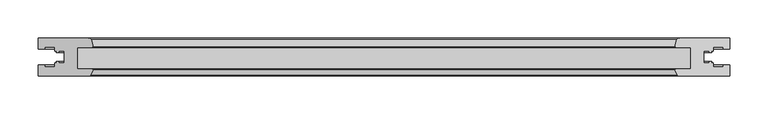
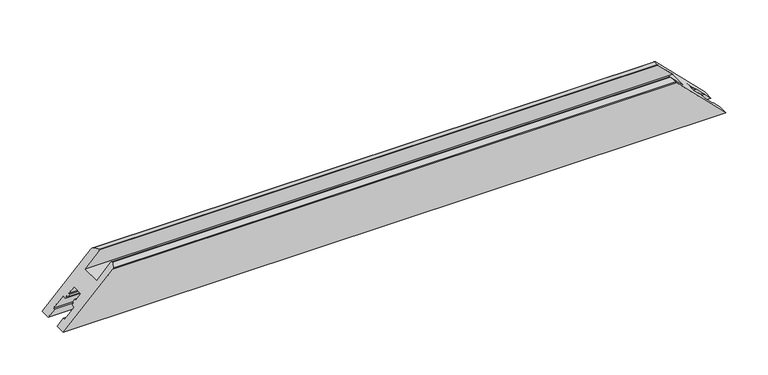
"""IFC4 building model written with IfcOpenShell, lengths in millimetres: proxy geometry, Weiku - Montante - Folha de correr 02.2.01.020 : Weiku - Montante - Folha de correr 02.2.01.020."""

from ifc_helpers import new_model, si_unit, frame, origin, place, context, project, spatial, ellipse_curve, source, transform, mapped, element, save
from ifc_brep_helpers import plane_surface, cylinder_surface, advanced_brep


def generic_models_0fb89373(model_context):
    return source(origin(), model_context, "Body", "AdvancedBrep", [
        advanced_brep(
        [(453.5, 50.0, 0.0), (-453.5, 50.0, 0.0), (-387.0004942, 50.0, 66.4995058), (387.0004942, 50.0, 66.4995058), (453.5, 35.5, 0.0), (-453.5, 35.5, 0.0), (-453.5, 0.0, 0.0), (453.5, 0.0, 0.0), (385.9879875, 0.0, 67.5120125), (-385.9879875, 0.0, 67.5120125), (-444.9, 35.5, 8.6), (-444.9, 38.3, 8.6), (-431.7, 38.3, 21.8), (-431.7, 33.1, 21.8), (-429.3524152, 33.1, 24.1475848), (-429.5273926, 31.1, 23.9726074), (-426.7, 31.1, 26.8), (-426.7, 33.1, 26.8), (-419.5, 33.1, 34.0), (-419.5, 16.9, 34.0), (-426.7, 16.9, 26.8), (-426.7, 18.9, 26.8), (-429.5273926, 18.9, 23.9726074), (-429.3524152, 16.9, 24.1475848), (-431.7, 16.9, 21.8), (-431.7, 11.7, 21.8), (-444.9, 11.7, 8.6), (-444.9, 14.5, 8.6), (-453.5, 14.5, 0.0), (-385.0940268, 0.5518546, 68.4059732), (-381.5520406, 7.617411, 71.9479594), (-382.7141895, 9.5, 70.7858105), (-402.5007611, 9.5, 50.9992389), (-402.5007611, 37.5, 50.9992389), (-382.0007611, 37.5, 71.4992389), (-381.5177981, 38.1294095, 71.9822019), (-384.1027168, 47.7764571, 69.3972832), (384.1027168, 47.7764571, 69.3972832), (381.5177981, 38.1294095, 71.9822019), (382.0007611, 37.5, 71.4992389), (402.5007611, 37.5, 50.9992389), (402.5007611, 9.5, 50.9992389), (382.7141895, 9.5, 70.7858105), (381.5520406, 7.617411, 71.9479594), (385.0940268, 0.5518546, 68.4059732), (453.5, 14.5, 0.0), (444.9, 14.5, 8.6), (444.9, 11.7, 8.6), (431.7, 11.7, 21.8), (431.7, 16.9, 21.8), (429.3524152, 16.9, 24.1475848), (429.5273926, 18.9, 23.9726074), (426.7, 18.9, 26.8), (426.7, 16.9, 26.8), (419.5, 16.9, 34.0), (419.5, 33.1, 34.0), (426.7, 33.1, 26.8), (426.7, 31.1, 26.8), (429.5273926, 31.1, 23.9726074), (429.3524152, 33.1, 24.1475848), (431.7, 33.1, 21.8), (431.7, 38.3, 21.8), (444.9, 38.3, 8.6), (444.9, 35.5, 8.6)],
        [
            (0, 1),
            (1, 2),
            (2, 3),
            (3, 0),
            (0, 4),
            (4, 5),
            (5, 1),
            (6, 7),
            (7, 8),
            (8, 9),
            (9, 6),
            (5, 10),
            (10, 11),
            (11, 12),
            (12, 13),
            (13, 14),
            (14, 15),
            (15, 16),
            (16, 17),
            (17, 18),
            (18, 19),
            (19, 20),
            (20, 21),
            (21, 22),
            (22, 23),
            (23, 24),
            (24, 25),
            (25, 26),
            (26, 27),
            (27, 28),
            (28, 6),
            (9, 29, ellipse_curve(frame((-385.9879875, 1.0, 67.5120125), z_axis=(-0.7071067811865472, 0.0, 0.7071067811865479), x_axis=(-0.7071067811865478, 0.0, -0.7071067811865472)), 1.4142136, 1.0)),
            (29, 30),
            (30, 31, ellipse_curve(frame((-382.7141895, 8.2, 70.7858105), z_axis=(-0.7071067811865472, 0.0, 0.7071067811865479), x_axis=(-0.7071067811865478, 0.0, -0.7071067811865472)), 1.8384776, 1.3)),
            (31, 32),
            (32, 33),
            (33, 34),
            (34, 35, ellipse_curve(frame((-382.0007611, 38.0, 71.4992389), z_axis=(-0.7071067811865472, 0.0, 0.7071067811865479), x_axis=(-0.7071067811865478, 0.0, -0.7071067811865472)), 0.7071068, 0.5)),
            (35, 36),
            (36, 2, ellipse_curve(frame((-387.0004942, 47.0, 66.4995058), z_axis=(-0.7071067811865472, 0.0, 0.7071067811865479), x_axis=(-0.7071067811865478, 0.0, -0.7071067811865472)), 4.2426407, 3.0)),
            (3, 37, ellipse_curve(frame((387.0004942, 47.0, 66.4995058), z_axis=(0.7071067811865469, 0.0, 0.7071067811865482), x_axis=(-0.707106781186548, 0.0, 0.7071067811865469)), 4.2426407, 3.0)),
            (37, 38),
            (38, 39, ellipse_curve(frame((382.0007611, 38.0, 71.4992389), z_axis=(0.7071067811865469, 0.0, 0.7071067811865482), x_axis=(-0.707106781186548, 0.0, 0.7071067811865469)), 0.7071068, 0.5)),
            (39, 40),
            (40, 41),
            (41, 42),
            (42, 43, ellipse_curve(frame((382.7141895, 8.2, 70.7858105), z_axis=(0.7071067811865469, 0.0, 0.7071067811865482), x_axis=(-0.707106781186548, 0.0, 0.7071067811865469)), 1.8384776, 1.3)),
            (43, 44),
            (44, 8, ellipse_curve(frame((385.9879875, 1.0, 67.5120125), z_axis=(0.7071067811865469, 0.0, 0.7071067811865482), x_axis=(-0.707106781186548, 0.0, 0.7071067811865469)), 1.4142136, 1.0)),
            (7, 45),
            (45, 46),
            (46, 47),
            (47, 48),
            (48, 49),
            (49, 50),
            (50, 51),
            (51, 52),
            (52, 53),
            (53, 54),
            (54, 55),
            (55, 56),
            (56, 57),
            (57, 58),
            (58, 59),
            (59, 60),
            (60, 61),
            (61, 62),
            (62, 63),
            (63, 4),
            (44, 29),
            (43, 30),
            (42, 31),
            (41, 32),
            (40, 33),
            (39, 34),
            (38, 35),
            (37, 36),
            (63, 10),
            (62, 11),
            (61, 12),
            (60, 13),
            (59, 14),
            (58, 15),
            (57, 16),
            (56, 17),
            (55, 18),
            (54, 19),
            (53, 20),
            (52, 21),
            (51, 22),
            (50, 23),
            (49, 24),
            (48, 25),
            (47, 26),
            (46, 27),
            (45, 28),
        ],
        [
            plane_surface(frame((-453.5, 50.0, 66.4995058), z_axis=(0.0, 1.0, 0.0), x_axis=(1.0, 0.0, 0.0))),
            plane_surface(frame((-453.5, 50.0, 0.0), z_axis=(0.0, 0.0, -1.0), x_axis=(1.0, 0.0, 0.0))),
            plane_surface(frame((-453.5, 0.0, 0.0), z_axis=(0.0, -1.0, 0.0), x_axis=(1.0, 0.0, 0.0))),
            plane_surface(frame((-481.7842712, 0.0, -28.2842712), z_axis=(-0.7071067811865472, 0.0, 0.7071067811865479), x_axis=(0.0, 1.0, 0.0))),
            plane_surface(frame((373.5, 0.0, 80.0), z_axis=(0.7071067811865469, 0.0, 0.7071067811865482), x_axis=(0.0, 1.0, 0.0))),
            cylinder_surface(frame((-453.5, 1.0, 67.5120125), z_axis=(-1.0, 0.0, 0.0), x_axis=(0.0, 1.0, 0.0)), 1.0),
            plane_surface(frame((-453.5, 0.5518546, 68.4059732), z_axis=(0.0, -0.4481453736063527, 0.8939606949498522), x_axis=(1.0, 0.0, 0.0))),
            cylinder_surface(frame((-453.5, 8.2, 70.7858105), z_axis=(-1.0, 0.0, 0.0), x_axis=(0.0, 1.0, 0.0)), 1.3),
            plane_surface(frame((-453.5, 9.5, 70.7858105), z_axis=(0.0, 1.0, 0.0), x_axis=(1.0, 0.0, 0.0))),
            plane_surface(frame((-453.5, 9.5, 50.9992389), z_axis=(0.0, 0.0, 1.0), x_axis=(1.0, 0.0, 0.0))),
            plane_surface(frame((-453.5, 37.5, 50.9992389), z_axis=(0.0, -1.0, 0.0), x_axis=(1.0, 0.0, 0.0))),
            cylinder_surface(frame((-453.5, 38.0, 71.4992389), z_axis=(-1.0, 0.0, 0.0), x_axis=(0.0, 1.0, 0.0)), 0.5),
            plane_surface(frame((-453.5, 38.1294095, 71.9822019), z_axis=(0.0, 0.2588190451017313, 0.9659258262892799), x_axis=(1.0, 0.0, 0.0))),
            cylinder_surface(frame((-453.5, 47.0, 66.4995058), z_axis=(-1.0, 0.0, 0.0), x_axis=(0.0, 1.0, 0.0)), 3.0),
            plane_surface(frame((-453.5, 35.5, 0.0), z_axis=(0.0, -1.0, 0.0), x_axis=(1.0, 0.0, 0.0))),
            plane_surface(frame((-453.5, 35.5, 8.6), z_axis=(0.0, 0.0, 1.0), x_axis=(1.0, 0.0, 0.0))),
            plane_surface(frame((-453.5, 38.3, 8.6), z_axis=(0.0, -1.0, 0.0), x_axis=(1.0, 0.0, 0.0))),
            plane_surface(frame((-453.5, 38.3, 21.8), z_axis=(0.0, 0.0, -1.0), x_axis=(1.0, 0.0, 0.0))),
            plane_surface(frame((-453.5, 33.1, 21.8), z_axis=(0.0, -1.0, 0.0), x_axis=(1.0, 0.0, 0.0))),
            plane_surface(frame((-453.5, 33.1, 24.1475848), z_axis=(0.0, 0.08715574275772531, -0.9961946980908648), x_axis=(1.0, 0.0, 0.0))),
            plane_surface(frame((-453.5, 31.1, 23.9726074), z_axis=(0.0, -1.0, 0.0), x_axis=(1.0, 0.0, 0.0))),
            plane_surface(frame((-453.5, 31.1, 26.8), z_axis=(0.0, 0.0, 1.0), x_axis=(1.0, 0.0, 0.0))),
            plane_surface(frame((-453.5, 33.1, 26.8), z_axis=(0.0, -1.0, 0.0), x_axis=(1.0, 0.0, 0.0))),
            plane_surface(frame((-453.5, 33.1, 34.0), z_axis=(0.0, 0.0, -1.0), x_axis=(1.0, 0.0, 0.0))),
            plane_surface(frame((-453.5, 16.9, 34.0), z_axis=(0.0, 1.0, 0.0), x_axis=(1.0, 0.0, 0.0))),
            plane_surface(frame((-453.5, 16.9, 26.8), z_axis=(0.0, 0.0, 1.0), x_axis=(1.0, 0.0, 0.0))),
            plane_surface(frame((-453.5, 18.9, 26.8), z_axis=(0.0, 1.0, 0.0), x_axis=(1.0, 0.0, 0.0))),
            plane_surface(frame((-453.5, 18.9, 23.9726074), z_axis=(0.0, -0.08715574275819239, -0.9961946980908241), x_axis=(1.0, 0.0, 0.0))),
            plane_surface(frame((-453.5, 16.9, 24.1475848), z_axis=(0.0, 1.0, 0.0), x_axis=(1.0, 0.0, 0.0))),
            plane_surface(frame((-453.5, 16.9, 21.8), z_axis=(0.0, 0.0, -1.0), x_axis=(1.0, 0.0, 0.0))),
            plane_surface(frame((-453.5, 11.7, 21.8), z_axis=(0.0, 1.0, 0.0), x_axis=(1.0, 0.0, 0.0))),
            plane_surface(frame((-453.5, 11.7, 8.6), z_axis=(0.0, 0.0, 1.0), x_axis=(1.0, 0.0, 0.0))),
            plane_surface(frame((-453.5, 14.5, 8.6), z_axis=(0.0, 1.0, 0.0), x_axis=(1.0, 0.0, 0.0))),
            plane_surface(frame((-453.5, 14.5, 0.0), z_axis=(0.0, 0.0, -1.0), x_axis=(1.0, 0.0, 0.0))),
        ],
        [
            (0, [[1, 2, 3, 4]]),
            (1, [[-1, 5, 6, 7]]),
            (2, [[8, 9, 10, 11]]),
            (3, [[-2, -7, 12, 13, 14, 15, 16, 17, 18, 19, 20, 21, 22, 23, 24, 25, 26, 27, 28, 29, 30, 31, -11, 32, 33, 34, 35, 36, 37, 38, 39, 40]]),
            (4, [[-4, 41, 42, 43, 44, 45, 46, 47, 48, 49, -9, 50, 51, 52, 53, 54, 55, 56, 57, 58, 59, 60, 61, 62, 63, 64, 65, 66, 67, 68, 69, -5]]),
            (5, [[-32, -10, -49, 70]]),
            (6, [[-33, -70, -48, 71]]),
            (7, [[-34, -71, -47, 72]]),
            (8, [[-35, -72, -46, 73]]),
            (9, [[-36, -73, -45, 74]]),
            (10, [[-37, -74, -44, 75]]),
            (11, [[-38, -75, -43, 76]]),
            (12, [[-39, -76, -42, 77]]),
            (13, [[-40, -77, -41, -3]]),
            (14, [[-6, -69, 78, -12]]),
            (15, [[-13, -78, -68, 79]]),
            (16, [[-14, -79, -67, 80]]),
            (17, [[-15, -80, -66, 81]]),
            (18, [[-16, -81, -65, 82]]),
            (19, [[-17, -82, -64, 83]]),
            (20, [[-18, -83, -63, 84]]),
            (21, [[-19, -84, -62, 85]]),
            (22, [[-20, -85, -61, 86]]),
            (23, [[-21, -86, -60, 87]]),
            (24, [[-22, -87, -59, 88]]),
            (25, [[-23, -88, -58, 89]]),
            (26, [[-24, -89, -57, 90]]),
            (27, [[-25, -90, -56, 91]]),
            (28, [[-26, -91, -55, 92]]),
            (29, [[-27, -92, -54, 93]]),
            (30, [[-28, -93, -53, 94]]),
            (31, [[-29, -94, -52, 95]]),
            (32, [[96, -30, -95, -51]]),
            (33, [[-8, -31, -96, -50]]),
        ],
    ),
    ])


if __name__ == "__main__":
    model = new_model("IFC4")
    model_context = context("Model", 3, world=origin())
    ifc_project = project(units=[si_unit("LENGTHUNIT", "METRE", prefix="MILLI")], contexts=[model_context])
    site = spatial("IfcSite", under=ifc_project)
    building = spatial("IfcBuilding", under=site)
    placement = place(None, origin())
    generic_models_shape = generic_models_0fb89373(model_context)
    element("IfcBuildingElementProxy", 1, Name="Weiku - Montante - Folha de correr 02.2.01.020 : Weiku - Montante - Folha de correr 02.2.01.020", ObjectType="Weiku - Montante - Folha de correr 02.2.01.020 : Weiku - Montante - Folha de correr 02.2.01.020", at=placement, inside=building, context=model_context, shape_type="MappedRepresentation", body=[
        mapped(generic_models_shape, transform((0.0, 0.0, 0.0), x_axis=(1.0, 0.0, 0.0), y_axis=(0.0, 1.0, 0.0), z_axis=(0.0, 0.0, 1.0))),
    ])
    save(model, "model.ifc")
